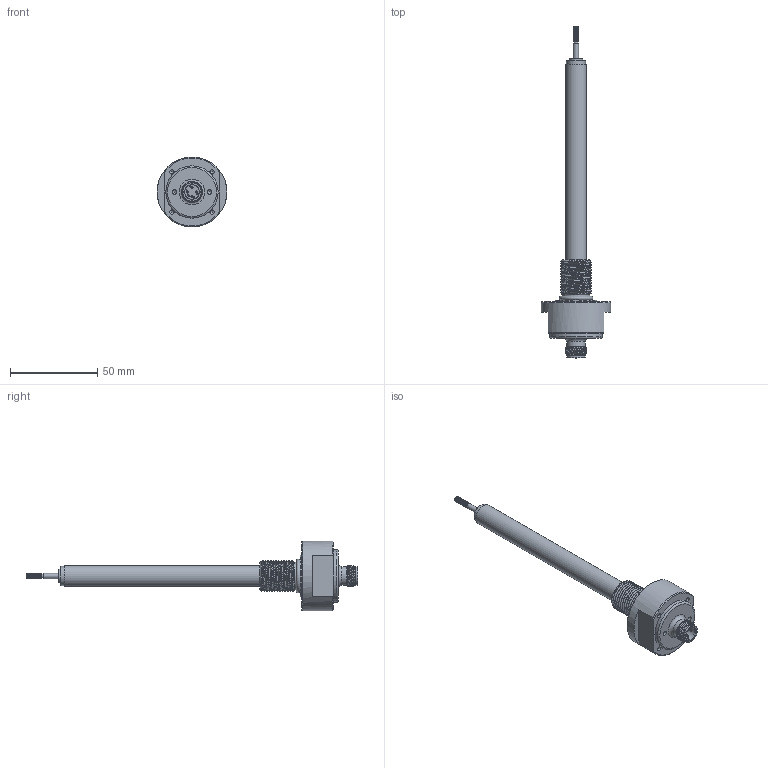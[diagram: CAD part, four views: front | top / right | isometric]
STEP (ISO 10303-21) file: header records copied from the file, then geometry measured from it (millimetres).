
FILE_DESCRIPTION( ( 'Unknown' ), '1' );
FILE_NAME( 'N:/Engineering/CAD/LVDT/HYD/Kunden-3D-Modell/SM10-HYD-18-S-M12.stp', 'Unknown', ( 'Unknown' ), ( 'Unknown' ), 'PSStep 17.0.49', 'Unknown', ' ' );
FILE_SCHEMA( ( 'AUTOMOTIVE_DESIGN { 1 0 10303 214 1 1 1 1 }' ) );
Length unit declared in the file: millimetre
Products named in the file (11): Einbaustecker_Waycon; Einbausteckverbinder_Waycon; Kontaktstift_M12; Assem1; Endkappe; Innenrohr_SM5-HYD; Kernverlängerung_SM5-HYD; SM-HYD-Flansch_M18_vereinfacht; O-Ring_15,4x2,1; Endkappe_HYD-KA_vereinfacht; Aussenrohr_SM25-HYD_vereinfacht
Assembly tree (13 placements, depth 3):
  Assem1
    Endkappe
    Innenrohr_SM5-HYD
    Kernverlängerung_SM5-HYD
    SM-HYD-Flansch_M18_vereinfacht
    O-Ring_15,4x2,1
    Endkappe_HYD-KA_vereinfacht
    Aussenrohr_SM25-HYD_vereinfacht
    Einbaustecker_Waycon
      Einbausteckverbinder_Waycon
      Kontaktstift_M12  x4
Bounding box: 40 x 190.2 x 40 mm (x, y, z)
Volume: 43836.2 mm3; surface area: 20638.3 mm2
Topology: 12 solids, 12 shells, 261 faces, 583 edges, 383 vertices
Faces by surface type: plane 122, cylinder 68, cone 37, extrusion 18, bspline 8, torus 8
Full cylindrical faces by diameter (mm): 0.5 x4, 1 x12, 1.2 x8, 1.8 x4, 2.013 x1, 2.4 x1, 2.5 x4, 2.6 x2, 3 x1, 4 x1, 6 x2, 8 x2, 8.2 x1, 8.3 x1, 9 x1, 9.35 x1, 9.55 x1, 10 x1, 10.05 x1, 10.5 x1, 10.6 x2, 11 x2, 12 x2, 15.8 x1, 22.5 x1, 24 x2, 30 x1, 40 x1
Entity records: 14294 total; most frequent: CARTESIAN_POINT 7955, DIRECTION 870, ORIENTED_EDGE 796, EDGE_CURVE 398, EDGE_LOOP 331, AXIS2_PLACEMENT_3D 327, VERTEX_POINT 309, FACE_OUTER_BOUND 264
